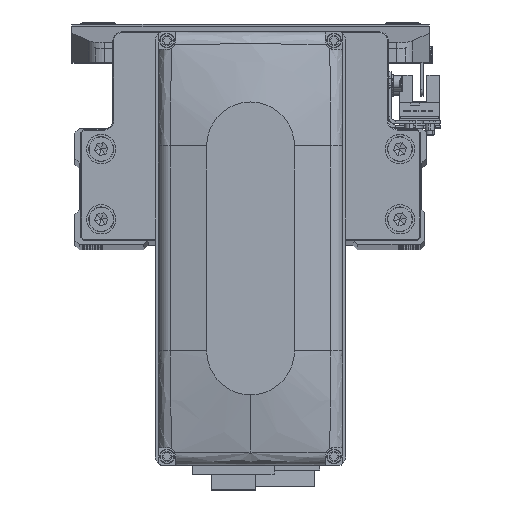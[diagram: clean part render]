
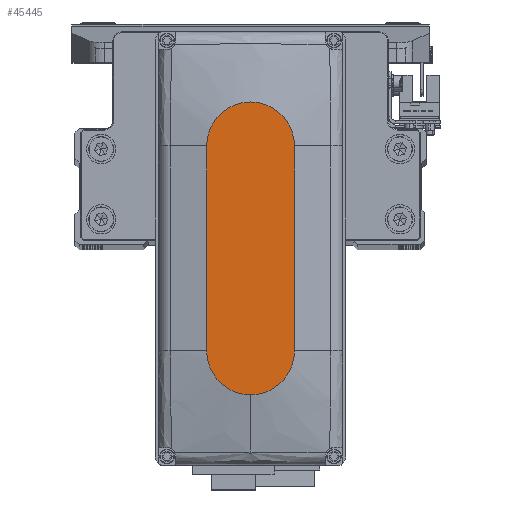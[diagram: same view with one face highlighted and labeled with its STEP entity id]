
A CAD part, top view. The second image highlights one B-rep face of the part: STEP entity #45445.
In plain terms, the highlighted planar face has unit normal (0, 0, 1).
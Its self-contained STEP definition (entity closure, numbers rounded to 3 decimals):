
#3 = VERTEX_POINT ( 'NONE', #1160 ) ;
#1160 = CARTESIAN_POINT ( 'NONE',  ( 50., 0., 35. ) ) ;
#1852 = EDGE_LOOP ( 'NONE', ( #29573, #37147, #16348, #28788, #14962 ) ) ;
#7701 = DIRECTION ( 'NONE',  ( 0., 0., 1. ) ) ;
#8302 = EDGE_CURVE ( 'NONE', #8964, #41069, #12197, .T. ) ;
#8502 = DIRECTION ( 'NONE',  ( 1., 0., 0. ) ) ;
#8964 = VERTEX_POINT ( 'NONE', #17822 ) ;
#9521 = DIRECTION ( 'NONE',  ( 0., 0., 1. ) ) ;
#10387 = CARTESIAN_POINT ( 'NONE',  ( 35., 0., 35. ) ) ;
#12197 = LINE ( 'NONE', #26793, #20836 ) ;
#13099 = FACE_OUTER_BOUND ( 'NONE', #1852, .T. ) ;
#13158 = CIRCLE ( 'NONE', #39946, 15. ) ;
#14772 = LINE ( 'NONE', #29374, #28554 ) ;
#14907 = EDGE_CURVE ( 'NONE', #14918, #3, #41725, .T. ) ;
#14918 = VERTEX_POINT ( 'NONE', #15901 ) ;
#14962 = ORIENTED_EDGE ( 'NONE', *, *, #34200, .T. ) ;
#15901 = CARTESIAN_POINT ( 'NONE',  ( 35., -15., 35. ) ) ;
#16279 = AXIS2_PLACEMENT_3D ( 'NONE', #40502, #7701, #22295 ) ;
#16348 = ORIENTED_EDGE ( 'NONE', *, *, #29008, .T. ) ;
#17822 = CARTESIAN_POINT ( 'NONE',  ( 35., 15., 35. ) ) ;
#20836 = VECTOR ( 'NONE', #41442, 1000. ) ;
#21033 = AXIS2_PLACEMENT_3D ( 'NONE', #26670, #41305, #8502 ) ;
#21082 = CARTESIAN_POINT ( 'NONE',  ( -35., -15., 35. ) ) ;
#22295 = DIRECTION ( 'NONE',  ( 1., 0., 0. ) ) ;
#23882 = EDGE_CURVE ( 'NONE', #41069, #45118, #36918, .T. ) ;
#24112 = DIRECTION ( 'NONE',  ( 1., 0., 0. ) ) ;
#24984 = DIRECTION ( 'NONE',  ( 0., 0., 1. ) ) ;
#26670 = CARTESIAN_POINT ( 'NONE',  ( 35., 0., 35. ) ) ;
#26793 = CARTESIAN_POINT ( 'NONE',  ( -35., 15., 35. ) ) ;
#27700 = PLANE ( 'NONE',  #39105 ) ;
#28554 = VECTOR ( 'NONE', #44010, 1000. ) ;
#28788 = ORIENTED_EDGE ( 'NONE', *, *, #14907, .T. ) ;
#29008 = EDGE_CURVE ( 'NONE', #45118, #14918, #14772, .T. ) ;
#29374 = CARTESIAN_POINT ( 'NONE',  ( -35., -15., 35. ) ) ;
#29573 = ORIENTED_EDGE ( 'NONE', *, *, #8302, .T. ) ;
#34200 = EDGE_CURVE ( 'NONE', #3, #8964, #13158, .T. ) ;
#36918 = CIRCLE ( 'NONE', #16279, 15. ) ;
#37147 = ORIENTED_EDGE ( 'NONE', *, *, #23882, .T. ) ;
#38469 = CARTESIAN_POINT ( 'NONE',  ( -35., 15., 35. ) ) ;
#39105 = AXIS2_PLACEMENT_3D ( 'NONE', #42355, #9521, #24112 ) ;
#39603 = DIRECTION ( 'NONE',  ( 1., 0., 0. ) ) ;
#39946 = AXIS2_PLACEMENT_3D ( 'NONE', #10387, #24984, #39603 ) ;
#40502 = CARTESIAN_POINT ( 'NONE',  ( -35., 0., 35. ) ) ;
#41069 = VERTEX_POINT ( 'NONE', #38469 ) ;
#41305 = DIRECTION ( 'NONE',  ( 0., 0., 1. ) ) ;
#41442 = DIRECTION ( 'NONE',  ( -1., 0., 0. ) ) ;
#41725 = CIRCLE ( 'NONE', #21033, 15. ) ;
#42355 = CARTESIAN_POINT ( 'NONE',  ( 0., 0., 35. ) ) ;
#44010 = DIRECTION ( 'NONE',  ( 1., 0., 0. ) ) ;
#45118 = VERTEX_POINT ( 'NONE', #21082 ) ;
#45445 = ADVANCED_FACE ( 'NONE', ( #13099 ), #27700, .T. ) ;
